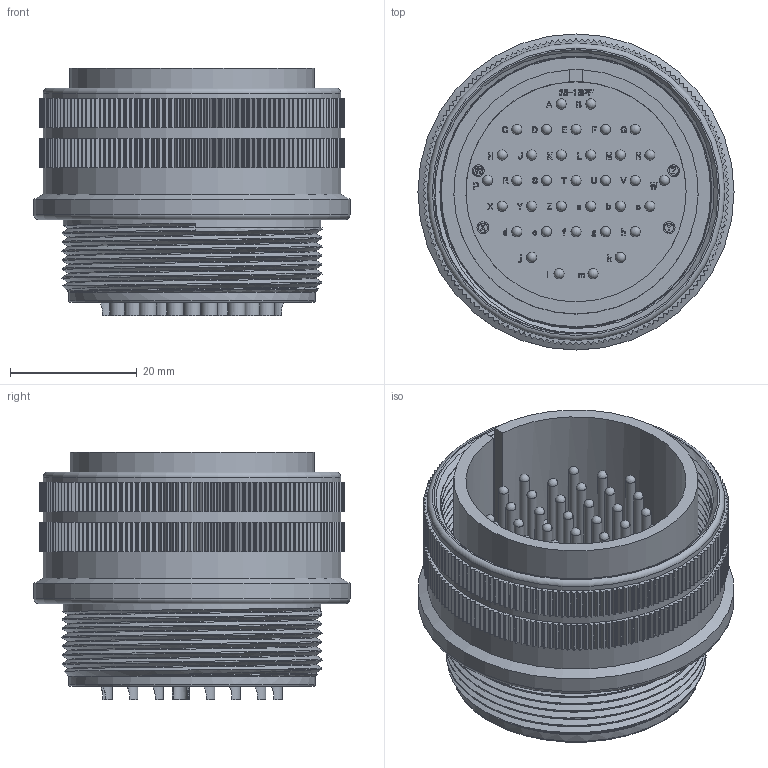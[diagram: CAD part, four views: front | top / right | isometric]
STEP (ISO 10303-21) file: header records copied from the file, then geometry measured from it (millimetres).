
FILE_DESCRIPTION (( 'STEP AP203' ), '1' );
FILE_NAME ('DMS3106A28-15P(D190).STEP', '2021-03-24T07:40:58', ( '' ), ( '' ), 'SwSTEP 2.0', 'SolidWorks 2018', '' );
FILE_SCHEMA (( 'CONFIG_CONTROL_DESIGN' ));
Length unit declared in the file: millimetre
Products named in the file (1): DMS3106A28-15P(D190)
Bounding box: 49.95 x 49.95 x 39.16 mm (x, y, z)
Volume: 30760.4 mm3; surface area: 27048.1 mm2
Topology: 1 solids, 1 shells, 4143 faces, 11789 edges, 7812 vertices
Faces by surface type: plane 1786, cylinder 1587, bspline 693, cone 39, sphere 35, torus 3
Full cylindrical faces by diameter (mm): 1.59 x35, 3.81 x31, 34.8 x1, 36.35 x1, 38.98 x1, 40.69 x1, 41.25 x1, 42.6 x1, 42.9 x1, 43.5 x1, 47 x3, 49.95 x1
Entity records: 157844 total; most frequent: CARTESIAN_POINT 53616, ORIENTED_EDGE 23020, DIRECTION 19814, EDGE_CURVE 11510, VERTEX_POINT 7724, LINE 6824, VECTOR 6824, AXIS2_PLACEMENT_3D 6495
